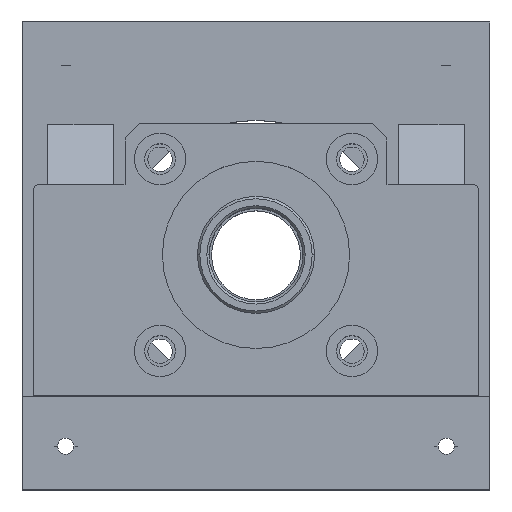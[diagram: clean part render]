
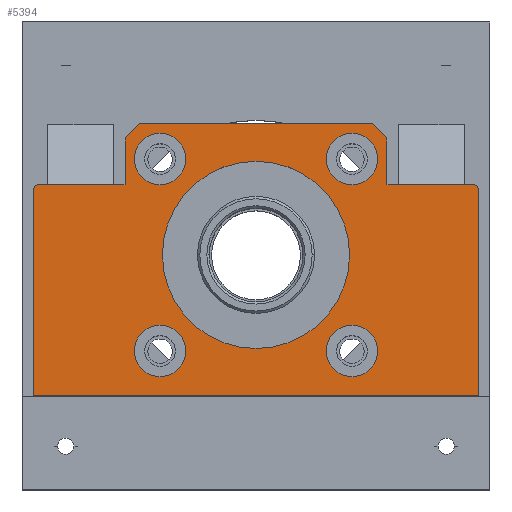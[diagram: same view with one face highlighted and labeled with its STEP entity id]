
A CAD part, top view. The second image highlights one B-rep face of the part: STEP entity #5394.
In plain terms, the highlighted planar face has unit normal (0, 0, 1).
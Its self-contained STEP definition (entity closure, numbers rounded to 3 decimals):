
#2331=DIRECTION('',(1.,0.,0.));
#2332=VECTOR('',#2331,95.);
#2333=CARTESIAN_POINT('',(-47.5,-30.,212.));
#2334=LINE('',#2333,#2332);
#3126=DIRECTION('',(0.,1.,0.));
#3127=VECTOR('',#3126,44.);
#3128=CARTESIAN_POINT('',(47.5,-30.,212.));
#3129=LINE('',#3128,#3127);
#3130=DIRECTION('',(0.707,0.707,0.));
#3131=VECTOR('',#3130,4.243);
#3132=CARTESIAN_POINT('',(-28.,25.,212.));
#3133=LINE('',#3132,#3131);
#3134=DIRECTION('',(0.707,-0.707,0.));
#3135=VECTOR('',#3134,4.243);
#3136=CARTESIAN_POINT('',(25.,28.,212.));
#3137=LINE('',#3136,#3135);
#3138=CARTESIAN_POINT('',(46.5,14.,212.));
#3139=DIRECTION('',(0.,0.,-1.));
#3140=DIRECTION('',(0.,1.,0.));
#3141=AXIS2_PLACEMENT_3D('',#3138,#3139,#3140);
#3143=CARTESIAN_POINT('',(-46.5,14.,212.));
#3144=DIRECTION('',(0.,0.,-1.));
#3145=DIRECTION('',(-1.,0.,0.));
#3146=AXIS2_PLACEMENT_3D('',#3143,#3144,#3145);
#3148=CARTESIAN_POINT('',(-20.506,-20.506,212.));
#3149=DIRECTION('',(0.,0.,1.));
#3150=DIRECTION('',(-1.,0.,0.));
#3151=AXIS2_PLACEMENT_3D('',#3148,#3149,#3150);
#3153=CARTESIAN_POINT('',(-20.506,-20.506,212.));
#3154=DIRECTION('',(0.,0.,1.));
#3155=DIRECTION('',(1.,0.,0.));
#3156=AXIS2_PLACEMENT_3D('',#3153,#3154,#3155);
#3158=CARTESIAN_POINT('',(-20.506,20.506,212.));
#3159=DIRECTION('',(0.,0.,1.));
#3160=DIRECTION('',(-1.,0.,0.));
#3161=AXIS2_PLACEMENT_3D('',#3158,#3159,#3160);
#3163=CARTESIAN_POINT('',(-20.506,20.506,212.));
#3164=DIRECTION('',(0.,0.,1.));
#3165=DIRECTION('',(1.,0.,0.));
#3166=AXIS2_PLACEMENT_3D('',#3163,#3164,#3165);
#3168=CARTESIAN_POINT('',(20.506,-20.506,212.));
#3169=DIRECTION('',(0.,0.,1.));
#3170=DIRECTION('',(-1.,0.,0.));
#3171=AXIS2_PLACEMENT_3D('',#3168,#3169,#3170);
#3173=CARTESIAN_POINT('',(20.506,-20.506,212.));
#3174=DIRECTION('',(0.,0.,1.));
#3175=DIRECTION('',(1.,0.,0.));
#3176=AXIS2_PLACEMENT_3D('',#3173,#3174,#3175);
#3178=CARTESIAN_POINT('',(0.,0.,212.));
#3179=DIRECTION('',(0.,0.,1.));
#3180=DIRECTION('',(-1.,0.,0.));
#3181=AXIS2_PLACEMENT_3D('',#3178,#3179,#3180);
#3183=CARTESIAN_POINT('',(0.,0.,212.));
#3184=DIRECTION('',(0.,0.,1.));
#3185=DIRECTION('',(1.,0.,0.));
#3186=AXIS2_PLACEMENT_3D('',#3183,#3184,#3185);
#3188=CARTESIAN_POINT('',(20.506,20.506,212.));
#3189=DIRECTION('',(0.,0.,1.));
#3190=DIRECTION('',(-1.,0.,0.));
#3191=AXIS2_PLACEMENT_3D('',#3188,#3189,#3190);
#3193=CARTESIAN_POINT('',(20.506,20.506,212.));
#3194=DIRECTION('',(0.,0.,1.));
#3195=DIRECTION('',(1.,0.,0.));
#3196=AXIS2_PLACEMENT_3D('',#3193,#3194,#3195);
#3198=DIRECTION('',(-1.,0.,0.));
#3199=VECTOR('',#3198,18.5);
#3200=CARTESIAN_POINT('',(-28.,15.,212.));
#3201=LINE('',#3200,#3199);
#3217=DIRECTION('',(0.,-1.,0.));
#3218=VECTOR('',#3217,10.);
#3219=CARTESIAN_POINT('',(-28.,25.,212.));
#3220=LINE('',#3219,#3218);
#3229=DIRECTION('',(-1.,0.,0.));
#3230=VECTOR('',#3229,50.);
#3231=CARTESIAN_POINT('',(25.,28.,212.));
#3232=LINE('',#3231,#3230);
#3241=DIRECTION('',(0.,1.,0.));
#3242=VECTOR('',#3241,10.);
#3243=CARTESIAN_POINT('',(28.,15.,212.));
#3244=LINE('',#3243,#3242);
#3249=DIRECTION('',(-1.,0.,0.));
#3250=VECTOR('',#3249,18.5);
#3251=CARTESIAN_POINT('',(46.5,15.,212.));
#3252=LINE('',#3251,#3250);
#3354=DIRECTION('',(0.,-1.,0.));
#3355=VECTOR('',#3354,44.);
#3356=CARTESIAN_POINT('',(-47.5,14.,212.));
#3357=LINE('',#3356,#3355);
#3993=CARTESIAN_POINT('',(-47.5,-30.,212.));
#3994=VERTEX_POINT('',#3993);
#3995=CARTESIAN_POINT('',(47.5,-30.,212.));
#3996=VERTEX_POINT('',#3995);
#4095=CARTESIAN_POINT('',(47.5,14.,212.));
#4096=VERTEX_POINT('',#4095);
#4097=CARTESIAN_POINT('',(-28.,15.,212.));
#4098=CARTESIAN_POINT('',(-46.5,15.,212.));
#4099=VERTEX_POINT('',#4097);
#4100=VERTEX_POINT('',#4098);
#4101=CARTESIAN_POINT('',(-28.,25.,212.));
#4102=VERTEX_POINT('',#4101);
#4103=CARTESIAN_POINT('',(-25.,28.,212.));
#4104=VERTEX_POINT('',#4103);
#4105=CARTESIAN_POINT('',(25.,28.,212.));
#4106=VERTEX_POINT('',#4105);
#4107=CARTESIAN_POINT('',(28.,25.,212.));
#4108=VERTEX_POINT('',#4107);
#4109=CARTESIAN_POINT('',(28.,15.,212.));
#4110=VERTEX_POINT('',#4109);
#4111=CARTESIAN_POINT('',(46.5,15.,212.));
#4112=VERTEX_POINT('',#4111);
#4113=CARTESIAN_POINT('',(-47.5,14.,212.));
#4114=VERTEX_POINT('',#4113);
#4115=CARTESIAN_POINT('',(-26.006,-20.506,212.));
#4116=CARTESIAN_POINT('',(-15.006,-20.506,212.));
#4117=VERTEX_POINT('',#4115);
#4118=VERTEX_POINT('',#4116);
#4119=CARTESIAN_POINT('',(-26.006,20.506,212.));
#4120=CARTESIAN_POINT('',(-15.006,20.506,212.));
#4121=VERTEX_POINT('',#4119);
#4122=VERTEX_POINT('',#4120);
#4123=CARTESIAN_POINT('',(15.006,-20.506,212.));
#4124=CARTESIAN_POINT('',(26.006,-20.506,212.));
#4125=VERTEX_POINT('',#4123);
#4126=VERTEX_POINT('',#4124);
#4127=CARTESIAN_POINT('',(-20.,0.,212.));
#4128=CARTESIAN_POINT('',(20.,0.,212.));
#4129=VERTEX_POINT('',#4127);
#4130=VERTEX_POINT('',#4128);
#4131=CARTESIAN_POINT('',(15.006,20.506,212.));
#4132=CARTESIAN_POINT('',(26.006,20.506,212.));
#4133=VERTEX_POINT('',#4131);
#4134=VERTEX_POINT('',#4132);
#5335=CARTESIAN_POINT('',(0.,0.,212.));
#5336=DIRECTION('',(0.,0.,1.));
#5337=DIRECTION('',(-1.,0.,0.));
#5338=AXIS2_PLACEMENT_3D('',#5335,#5336,#5337);
#5339=PLANE('',#5338);
#5341=ORIENTED_EDGE('',*,*,#5340,.F.);
#5343=ORIENTED_EDGE('',*,*,#5342,.F.);
#5345=ORIENTED_EDGE('',*,*,#5344,.T.);
#5347=ORIENTED_EDGE('',*,*,#5346,.F.);
#5349=ORIENTED_EDGE('',*,*,#5348,.T.);
#5351=ORIENTED_EDGE('',*,*,#5350,.F.);
#5353=ORIENTED_EDGE('',*,*,#5352,.F.);
#5355=ORIENTED_EDGE('',*,*,#5354,.T.);
#5356=ORIENTED_EDGE('',*,*,#5328,.F.);
#5357=ORIENTED_EDGE('',*,*,#4450,.F.);
#5359=ORIENTED_EDGE('',*,*,#5358,.F.);
#5361=ORIENTED_EDGE('',*,*,#5360,.T.);
#5362=EDGE_LOOP('',(#5341,#5343,#5345,#5347,#5349,#5351,#5353,#5355,#5356,#5357,
#5359,#5361));
#5363=FACE_OUTER_BOUND('',#5362,.F.);
#5365=ORIENTED_EDGE('',*,*,#5364,.T.);
#5367=ORIENTED_EDGE('',*,*,#5366,.T.);
#5368=EDGE_LOOP('',(#5365,#5367));
#5369=FACE_BOUND('',#5368,.F.);
#5371=ORIENTED_EDGE('',*,*,#5370,.T.);
#5373=ORIENTED_EDGE('',*,*,#5372,.T.);
#5374=EDGE_LOOP('',(#5371,#5373));
#5375=FACE_BOUND('',#5374,.F.);
#5377=ORIENTED_EDGE('',*,*,#5376,.T.);
#5379=ORIENTED_EDGE('',*,*,#5378,.T.);
#5380=EDGE_LOOP('',(#5377,#5379));
#5381=FACE_BOUND('',#5380,.F.);
#5383=ORIENTED_EDGE('',*,*,#5382,.T.);
#5385=ORIENTED_EDGE('',*,*,#5384,.T.);
#5386=EDGE_LOOP('',(#5383,#5385));
#5387=FACE_BOUND('',#5386,.F.);
#5389=ORIENTED_EDGE('',*,*,#5388,.T.);
#5391=ORIENTED_EDGE('',*,*,#5390,.T.);
#5392=EDGE_LOOP('',(#5389,#5391));
#5393=FACE_BOUND('',#5392,.F.);
#3142=CIRCLE('',#3141,1.);
#3147=CIRCLE('',#3146,1.);
#3152=CIRCLE('',#3151,5.5);
#3157=CIRCLE('',#3156,5.5);
#3162=CIRCLE('',#3161,5.5);
#3167=CIRCLE('',#3166,5.5);
#3172=CIRCLE('',#3171,5.5);
#3177=CIRCLE('',#3176,5.5);
#3182=CIRCLE('',#3181,20.);
#3187=CIRCLE('',#3186,20.);
#3192=CIRCLE('',#3191,5.5);
#3197=CIRCLE('',#3196,5.5);
#4450=EDGE_CURVE('',#3994,#3996,#2334,.T.);
#5328=EDGE_CURVE('',#3996,#4096,#3129,.T.);
#5340=EDGE_CURVE('',#4099,#4100,#3201,.T.);
#5342=EDGE_CURVE('',#4102,#4099,#3220,.T.);
#5344=EDGE_CURVE('',#4102,#4104,#3133,.T.);
#5346=EDGE_CURVE('',#4106,#4104,#3232,.T.);
#5348=EDGE_CURVE('',#4106,#4108,#3137,.T.);
#5350=EDGE_CURVE('',#4110,#4108,#3244,.T.);
#5352=EDGE_CURVE('',#4112,#4110,#3252,.T.);
#5354=EDGE_CURVE('',#4112,#4096,#3142,.T.);
#5358=EDGE_CURVE('',#4114,#3994,#3357,.T.);
#5360=EDGE_CURVE('',#4114,#4100,#3147,.T.);
#5364=EDGE_CURVE('',#4117,#4118,#3152,.T.);
#5366=EDGE_CURVE('',#4118,#4117,#3157,.T.);
#5370=EDGE_CURVE('',#4121,#4122,#3162,.T.);
#5372=EDGE_CURVE('',#4122,#4121,#3167,.T.);
#5376=EDGE_CURVE('',#4125,#4126,#3172,.T.);
#5378=EDGE_CURVE('',#4126,#4125,#3177,.T.);
#5382=EDGE_CURVE('',#4129,#4130,#3182,.T.);
#5384=EDGE_CURVE('',#4130,#4129,#3187,.T.);
#5388=EDGE_CURVE('',#4133,#4134,#3192,.T.);
#5390=EDGE_CURVE('',#4134,#4133,#3197,.T.);
#5394=ADVANCED_FACE('',(#5363,#5369,#5375,#5381,#5387,#5393),#5339,.T.);
